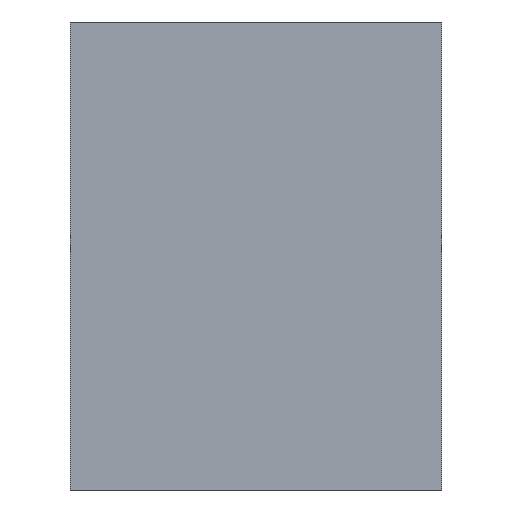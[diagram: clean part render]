
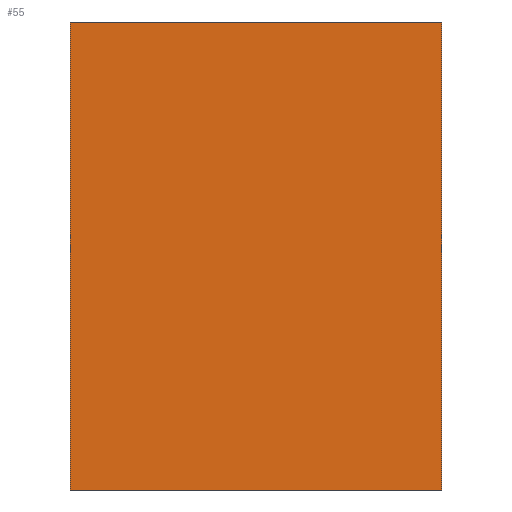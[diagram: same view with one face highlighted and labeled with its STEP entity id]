
A CAD part, front view. The second image highlights one B-rep face of the part: STEP entity #55.
In plain terms, the highlighted planar face has unit normal (0, -1, 0).
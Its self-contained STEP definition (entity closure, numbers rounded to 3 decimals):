
#55=ADVANCED_FACE('',(#61),#97,.T.);
#61=FACE_OUTER_BOUND('',#67,.F.);
#67=EDGE_LOOP('',(#76,#77,#78,#79));
#76=ORIENTED_EDGE('',*,*,#106,.F.);
#77=ORIENTED_EDGE('',*,*,#107,.F.);
#78=ORIENTED_EDGE('',*,*,#108,.F.);
#79=ORIENTED_EDGE('',*,*,#109,.F.);
#97=PLANE('',#149);
#106=EDGE_CURVE('',#141,#140,#118,.T.);
#107=EDGE_CURVE('',#139,#141,#119,.T.);
#108=EDGE_CURVE('',#138,#139,#120,.T.);
#109=EDGE_CURVE('',#140,#138,#121,.T.);
#118=LINE('',#196,#130);
#119=LINE('',#197,#131);
#120=LINE('',#198,#132);
#121=LINE('',#199,#133);
#130=VECTOR('',#161,169.);
#131=VECTOR('',#162,134.);
#132=VECTOR('',#163,169.);
#133=VECTOR('',#164,134.);
#138=VERTEX_POINT('',#184);
#139=VERTEX_POINT('',#185);
#140=VERTEX_POINT('',#186);
#141=VERTEX_POINT('',#187);
#149=AXIS2_PLACEMENT_3D('',#205,#171,#172);
#161=DIRECTION('',(0.,0.,-1.));
#162=DIRECTION('',(-1.,0.,0.));
#163=DIRECTION('',(0.,0.,1.));
#164=DIRECTION('',(1.,0.,0.));
#171=DIRECTION('',(0.,-1.,0.));
#172=DIRECTION('',(-1.,0.,0.));
#184=CARTESIAN_POINT('',(-653.426,383.75,1511.666));
#185=CARTESIAN_POINT('',(-653.426,383.75,1680.666));
#186=CARTESIAN_POINT('',(-787.426,383.75,1511.666));
#187=CARTESIAN_POINT('',(-787.426,383.75,1680.666));
#196=CARTESIAN_POINT('',(-787.426,383.75,1680.666));
#197=CARTESIAN_POINT('',(-653.426,383.75,1680.666));
#198=CARTESIAN_POINT('',(-653.426,383.75,1511.666));
#199=CARTESIAN_POINT('',(-787.426,383.75,1511.666));
#205=CARTESIAN_POINT('',(-651.736,383.75,1682.356));
